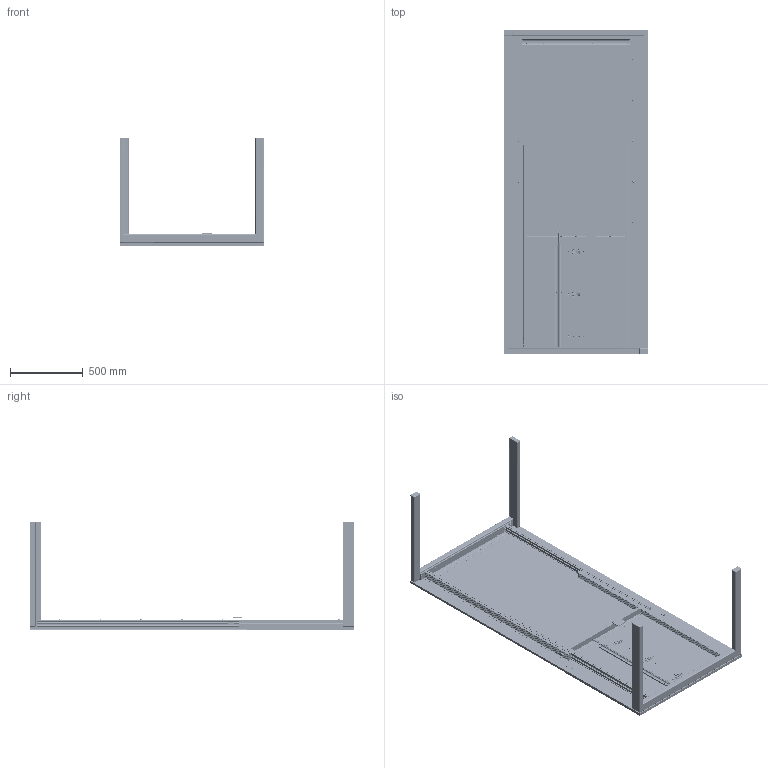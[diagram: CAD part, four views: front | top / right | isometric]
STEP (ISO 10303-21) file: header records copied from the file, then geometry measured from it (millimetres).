
FILE_DESCRIPTION (( 'STEP AP203' ), '1' );
FILE_NAME ('T allungami Grès + all fenix.STEP', '2026-10-06T13:22:08', ( '' ), ( '' ), 'SwSTEP 2.0', 'SolidWorks 2023', '' );
FILE_SCHEMA (( 'CONFIG_CONTROL_DESIGN' ));
Length unit declared in the file: millimetre
Products named in the file (46): 0009132_Coulisse Atim - cache B; 0009110_050 - Coulisse Atim - Allungami L150 - brin mobile gauche ; 00092d3_010 - Coulisse Atim - Allungami L150 - câle oméga ; 000930a_Coulisse Atim - vis plat + noix jonction; 0009124_Coulisse Atim - cache A; Insert à visser M4 Ø8x8 (81066210); 000fedf_010-Allonge L75 Fenix noir + stratifié lisse - Droite; 0009110_010 - Coulisse Atim - Allungami L150 - brin fixe gauche ; 000930b_Coulisse Atim - vis brin+noix jonction; 000960d_Atim - dôme de réglage (3); 000952d; 0009612_Atim - frein (3); 0009110_020 - Coulisse Atim - Allungami L150 - brin fixe droit ; 000913a_020 - Coulisse Atim - Allungami 2 brins - plat mobile; 0009610_Atim - frein (1); Vis VBA  4 x12 TRP Zinguée (81072854)_Zinguée; 0009110_ 060 - Coulisse Atim - Allungami L150 - brin mobile droit ; 0008e34_Coulisse Atim - Allungami L150 - axe allonge; 000fee1_010-Allonge L75 Fenix noir + stratifié lisse - Gauche; 000952e; 0009309_Coulisse Atim - noix de jonction; 0009262_pied noir Allungami; 000960e_Atim - dôme de réglage ; 0009159_010 - Coulisse Atim - 2 brins - entretoise; 0009530_010 - ; Insert à visser M6 (81074931); 000913a_010 - Coulisse Atim - Allungami 2 brins - plat fixe; 000960c_Atim - dôme de réglage (2); 000912b_300 - Coulisse Allungami grès L150 ouverte; 00092f7_Coulisse Atim - vis liaison entretoise; Vis M6x60 TBHC zinguée noir (81062211)_Vis M6x60 TBHC Zn noir; 0005995_010-Pièce de glissage allonge; 00092d2_Coulisse Atim - plôt réglage axe allonges; T allungami Grès + all fenix; 0009613_Atim - frein; 000952f; 000a0de_Charnière grès dépliée; 0009611_Atim - frein (2); 000afa2_020- Renfort de plateau L750; 00095e5_090- Plateau support grès L1492 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
Assembly tree (134 placements, depth 4):
  T allungami Grès + all fenix
    000fedf_010-Allonge L75 Fenix noir + stratifié lisse - Droite
    000fee1_010-Allonge L75 Fenix noir + stratifié lisse - Gauche
    000912b_300 - Coulisse Allungami grès L150 ouverte
      0009110_020 - Coulisse Atim - Allungami L150 - brin fixe droit 
      0009110_050 - Coulisse Atim - Allungami L150 - brin mobile gauche 
      0009124_Coulisse Atim - cache A  x3
      0009132_Coulisse Atim - cache B  x3
      0009110_ 060 - Coulisse Atim - Allungami L150 - brin mobile droit 
      000913a_020 - Coulisse Atim - Allungami 2 brins - plat mobile
      000913a_010 - Coulisse Atim - Allungami 2 brins - plat fixe
      0009110_010 - Coulisse Atim - Allungami L150 - brin fixe gauche 
      0009159_010 - Coulisse Atim - 2 brins - entretoise
      0008e34_Coulisse Atim - Allungami L150 - axe allonge
      00092d2_Coulisse Atim - plôt réglage axe allonges
      00092f7_Coulisse Atim - vis liaison entretoise  x2
      0009309_Coulisse Atim - noix de jonction  x4
      000930b_Coulisse Atim - vis brin+noix jonction  x8
      000930a_Coulisse Atim - vis plat + noix jonction  x8
      000915d_010 - Coulisse Atim - Allungami L150 - oméga 
      00092d3_010 - Coulisse Atim - Allungami L150 - câle oméga 
      0009530_010 - 
        000952d
        000952e
        000952f
      000960e_Atim - dôme de réglage   x4
        000960d_Atim - dôme de réglage (3)
        000960c_Atim - dôme de réglage (2)
        000960b_Atim - dôme de réglage (1)
      0009613_Atim - frein  x2
        0009611_Atim - frein (2)
        0009610_Atim - frein (1)
        0009612_Atim - frein (3)
    0009262_pied noir Allungami
    0009262_pied perle Allungami
    000a0de_Charnière grès dépliée  x3
    00095e5_090- Plateau support grès L1492 
    0009361_010-Plateau grès foncé L150
    Insert à visser M4 Ø8x8 (81066210)  x6
    0005995_010-Pièce de glissage allonge  x2
    81086251 notice adhésive manip. all. L150 Naïa
    Insert à visser M6 (81074931)  x10
    000afa2_020- Renfort de plateau L750  x2
    Vis VBA  4 x12 TRP Zinguée (81072854)_Zinguée  x20
    Vis métaux M6x25 FHC Zinguée noir (81062198)_Vis métaux M6x25 FHC Zinguée noir   x18
    Vis M6x60 TBHC zinguée noir (81062211)_Vis M6x60 TBHC Zn noir  x10
Bounding box: 994.2 x 2234 x 743.5 mm (x, y, z)
Volume: 50462819.3 mm3; surface area: 12738891.3 mm2
Topology: 157 solids, 157 shells, 13758 faces, 32188 edges, 18744 vertices
Faces by surface type: cylinder 5288, cone 4590, plane 2698, torus 646, bspline 364, sphere 172
Entity records: 167028 total; most frequent: CARTESIAN_POINT 37796, DIRECTION 26355, ORIENTED_EDGE 25378, EDGE_CURVE 12689, AXIS2_PLACEMENT_3D 10007, VERTEX_POINT 7986, LINE 6341, VECTOR 6341
